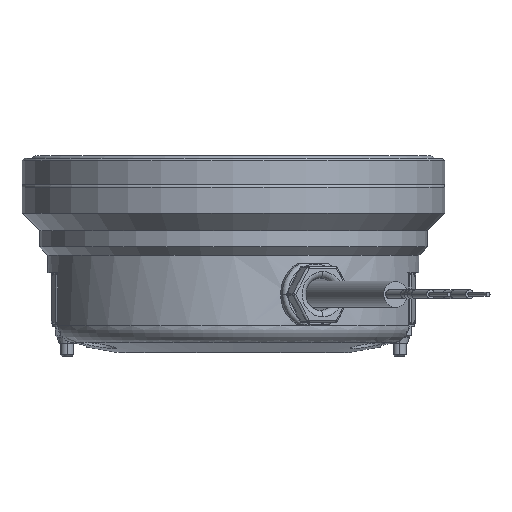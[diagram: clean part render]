
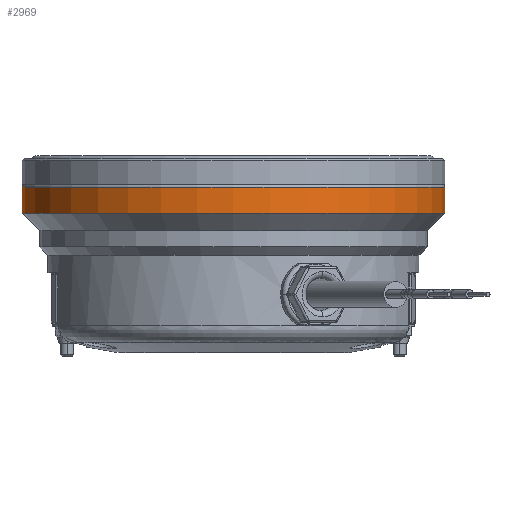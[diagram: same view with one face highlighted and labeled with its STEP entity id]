
A CAD part, front view. The second image highlights one B-rep face of the part: STEP entity #2969.
In plain terms, the highlighted cylindrical face has radius 49 mm (diameter 98 mm), a partial arc.
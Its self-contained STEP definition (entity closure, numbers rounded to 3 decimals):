
#216 = CARTESIAN_POINT ( 'NONE',  ( -49., 0., 0. ) ) ;
#784 = CARTESIAN_POINT ( 'NONE',  ( 0., 0., -6.717 ) ) ;
#1529 = ORIENTED_EDGE ( 'NONE', *, *, #53626, .F. ) ;
#2635 = CARTESIAN_POINT ( 'NONE',  ( -49., 0., -6.717 ) ) ;
#2862 = AXIS2_PLACEMENT_3D ( 'NONE', #7548, #46437, #42114 ) ;
#2969 = ADVANCED_FACE ( 'NONE', ( #6967 ), #7269, .T. ) ;
#5407 = DIRECTION ( 'NONE',  ( 0., 0., -1. ) ) ;
#6967 = FACE_OUTER_BOUND ( 'NONE', #7458, .T. ) ;
#7269 = CYLINDRICAL_SURFACE ( 'NONE', #2862, 49. ) ;
#7458 = EDGE_LOOP ( 'NONE', ( #1529, #19715, #31219, #27458 ) ) ;
#7548 = CARTESIAN_POINT ( 'NONE',  ( 0., 0., 0. ) ) ;
#10244 = AXIS2_PLACEMENT_3D ( 'NONE', #784, #5407, #11474 ) ;
#11474 = DIRECTION ( 'NONE',  ( 1., 0., 0. ) ) ;
#11878 = VERTEX_POINT ( 'NONE', #17628 ) ;
#15740 = CARTESIAN_POINT ( 'NONE',  ( -49., 0., -0.7 ) ) ;
#17128 = EDGE_CURVE ( 'NONE', #31725, #11878, #45216, .T. ) ;
#17628 = CARTESIAN_POINT ( 'NONE',  ( 49., 0., -0.7 ) ) ;
#19715 = ORIENTED_EDGE ( 'NONE', *, *, #47437, .F. ) ;
#19729 = DIRECTION ( 'NONE',  ( -1., 0., 0. ) ) ;
#22743 = DIRECTION ( 'NONE',  ( 0., 0., 1. ) ) ;
#22816 = CARTESIAN_POINT ( 'NONE',  ( 49., 0., 0. ) ) ;
#23292 = EDGE_CURVE ( 'NONE', #11878, #31778, #33316, .T. ) ;
#27458 = ORIENTED_EDGE ( 'NONE', *, *, #23292, .T. ) ;
#27638 = VERTEX_POINT ( 'NONE', #2635 ) ;
#29527 = AXIS2_PLACEMENT_3D ( 'NONE', #42165, #55408, #19729 ) ;
#31219 = ORIENTED_EDGE ( 'NONE', *, *, #17128, .T. ) ;
#31725 = VERTEX_POINT ( 'NONE', #53476 ) ;
#31778 = VERTEX_POINT ( 'NONE', #15740 ) ;
#33316 = CIRCLE ( 'NONE', #29527, 49. ) ;
#35962 = LINE ( 'NONE', #216, #54818 ) ;
#38436 = VECTOR ( 'NONE', #48995, 1000. ) ;
#40554 = CIRCLE ( 'NONE', #10244, 49. ) ;
#42114 = DIRECTION ( 'NONE',  ( 1., 0., 0. ) ) ;
#42165 = CARTESIAN_POINT ( 'NONE',  ( 0., 0., -0.7 ) ) ;
#45216 = LINE ( 'NONE', #22816, #38436 ) ;
#46437 = DIRECTION ( 'NONE',  ( 0., 0., 1. ) ) ;
#47437 = EDGE_CURVE ( 'NONE', #31725, #27638, #40554, .T. ) ;
#48995 = DIRECTION ( 'NONE',  ( 0., 0., 1. ) ) ;
#53476 = CARTESIAN_POINT ( 'NONE',  ( 49., 0., -6.717 ) ) ;
#53626 = EDGE_CURVE ( 'NONE', #27638, #31778, #35962, .T. ) ;
#54818 = VECTOR ( 'NONE', #22743, 1000. ) ;
#55408 = DIRECTION ( 'NONE',  ( 0., 0., -1. ) ) ;
